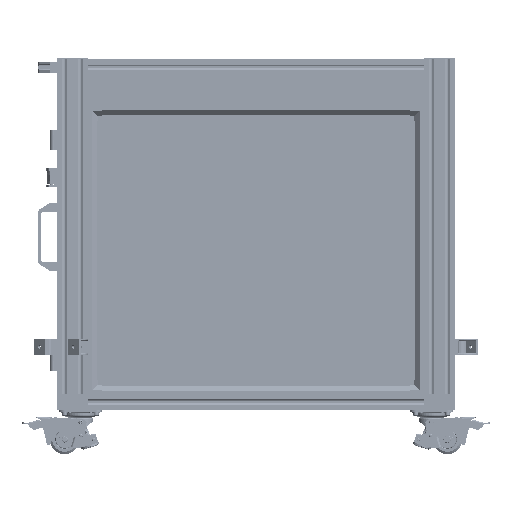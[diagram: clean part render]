
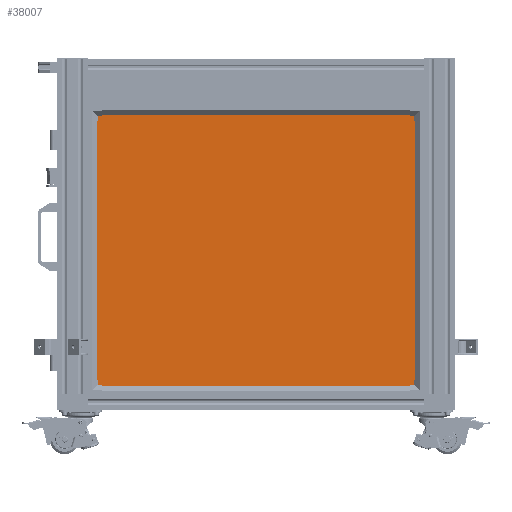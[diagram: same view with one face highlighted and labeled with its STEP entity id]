
A CAD part, front view. The second image highlights one B-rep face of the part: STEP entity #38007.
In plain terms, the highlighted planar face has unit normal (0, -1, 0) as drawn and (0, 0, -1) by its records, which use the part's own axes.
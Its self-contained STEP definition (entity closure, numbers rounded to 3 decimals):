
#38007=ADVANCED_FACE('',(#74178),#74179,.F.);
#74178=FACE_OUTER_BOUND('',#120174,.T.);
#74179=PLANE('',#120175);
#120174=EDGE_LOOP('',(#280625,#280626,#280627,#280628));
#120175=AXIS2_PLACEMENT_3D('',#280629,#280630,#280631);
#280625=ORIENTED_EDGE('',*,*,#380042,.F.);
#280626=ORIENTED_EDGE('',*,*,#380044,.F.);
#280627=ORIENTED_EDGE('',*,*,#380037,.F.);
#280628=ORIENTED_EDGE('',*,*,#380033,.F.);
#280629=CARTESIAN_POINT('',(241.071,277.195,0.));
#280630=DIRECTION('',(0.0,0.0,1.0));
#280631=DIRECTION('',(1.0,0.0,0.0));
#380033=EDGE_CURVE('',#429426,#429428,#429429,.T.);
#380037=EDGE_CURVE('',#429428,#429434,#429435,.T.);
#380042=EDGE_CURVE('',#429440,#429426,#429442,.T.);
#380044=EDGE_CURVE('',#429434,#429440,#429444,.T.);
#429426=VERTEX_POINT('',#503466);
#429428=VERTEX_POINT('',#503469);
#429429=LINE('',#503470,#503471);
#429434=VERTEX_POINT('',#503478);
#429435=LINE('',#503479,#503480);
#429440=VERTEX_POINT('',#503487);
#429442=LINE('',#503490,#503491);
#429444=LINE('',#503493,#503494);
#503466=CARTESIAN_POINT('',(658.571,-79.5,0.));
#503469=CARTESIAN_POINT('',(658.571,633.891,0.));
#503470=CARTESIAN_POINT('',(658.571,-79.5,0.));
#503471=VECTOR('',#643509,1.0);
#503478=CARTESIAN_POINT('',(-176.429,633.891,0.));
#503479=CARTESIAN_POINT('',(658.571,633.891,0.));
#503480=VECTOR('',#643512,1.0);
#503487=CARTESIAN_POINT('',(-176.429,-79.5,0.));
#503490=CARTESIAN_POINT('',(-176.429,-79.5,0.));
#503491=VECTOR('',#643516,1.0);
#503493=CARTESIAN_POINT('',(-176.429,633.891,0.));
#503494=VECTOR('',#643517,1.0);
#643509=DIRECTION('',(0.0,1.0,0.0));
#643512=DIRECTION('',(-1.0,0.0,0.0));
#643516=DIRECTION('',(1.0,0.0,0.0));
#643517=DIRECTION('',(0.0,-1.0,0.0));
